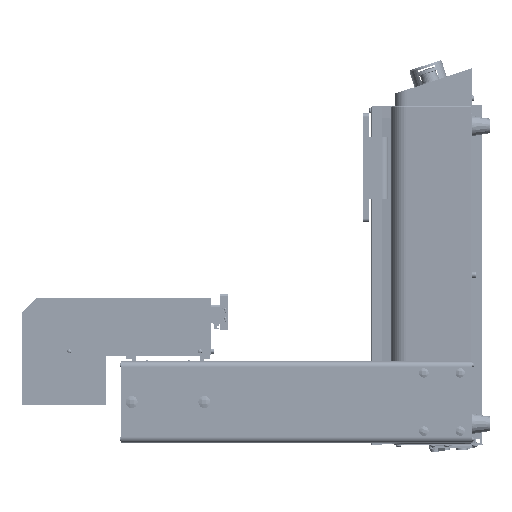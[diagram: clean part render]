
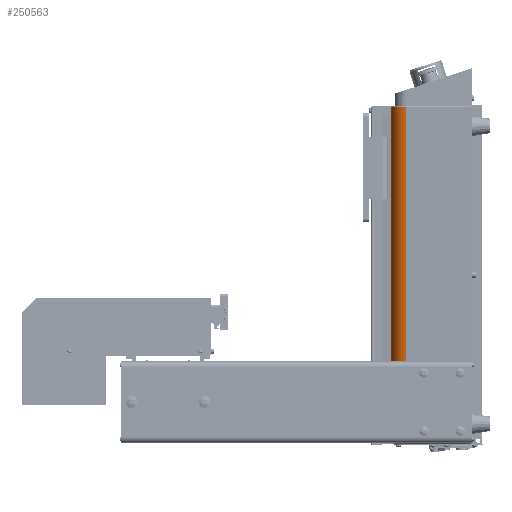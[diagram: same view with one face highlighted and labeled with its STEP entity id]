
A CAD part, left-side view. The second image highlights one B-rep face of the part: STEP entity #250563.
In plain terms, the highlighted cylindrical face has radius 22 mm (diameter 44 mm), a partial arc.
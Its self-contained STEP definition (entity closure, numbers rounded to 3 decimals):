
#231950 = PLANE('',#231951);
#231951 = AXIS2_PLACEMENT_3D('',#231952,#231953,#231954);
#231952 = CARTESIAN_POINT('',(153.82,329.087,
    489.695));
#231953 = DIRECTION('',(0.999,-0.044,0.));
#231954 = DIRECTION('',(0.044,0.999,0.));
#233418 = TOROIDAL_SURFACE('',#233419,20.,2.);
#233419 = AXIS2_PLACEMENT_3D('',#233420,#233421,#233422);
#233420 = CARTESIAN_POINT('',(175.799,328.127,
    26.695));
#233421 = DIRECTION('',(0.,0.,-1.));
#233422 = DIRECTION('',(-1.,0.,0.));
#248768 = PLANE('',#248769);
#248769 = AXIS2_PLACEMENT_3D('',#248770,#248771,#248772);
#248770 = CARTESIAN_POINT('',(554.073,350.127,
    489.695));
#248771 = DIRECTION('',(0.,-1.,0.));
#248772 = DIRECTION('',(0.,0.,-1.));
#248788 = VERTEX_POINT('',#248789);
#248789 = CARTESIAN_POINT('',(175.799,350.127,
    26.695));
#248810 = EDGE_CURVE('',#248811,#248788,#248813,.T.);
#248811 = VERTEX_POINT('',#248812);
#248812 = CARTESIAN_POINT('',(175.799,350.127,
    487.695));
#248813 = SURFACE_CURVE('',#248814,(#248818,#248825),.PCURVE_S1.);
#248814 = LINE('',#248815,#248816);
#248815 = CARTESIAN_POINT('',(175.799,350.127,
    489.695));
#248816 = VECTOR('',#248817,1.);
#248817 = DIRECTION('',(0.,0.,-1.));
#248818 = PCURVE('',#248768,#248819);
#248819 = DEFINITIONAL_REPRESENTATION('',(#248820),#248824);
#248820 = LINE('',#248821,#248822);
#248821 = CARTESIAN_POINT('',(0.,-378.274));
#248822 = VECTOR('',#248823,1.);
#248823 = DIRECTION('',(1.,0.));
#248824 = ( GEOMETRIC_REPRESENTATION_CONTEXT(2) 
PARAMETRIC_REPRESENTATION_CONTEXT() REPRESENTATION_CONTEXT('2D SPACE',''
  ) );
#248825 = PCURVE('',#248826,#248831);
#248826 = CYLINDRICAL_SURFACE('',#248827,22.);
#248827 = AXIS2_PLACEMENT_3D('',#248828,#248829,#248830);
#248828 = CARTESIAN_POINT('',(175.799,328.127,
    489.695));
#248829 = DIRECTION('',(0.,0.,-1.));
#248830 = DIRECTION('',(-1.,0.,0.));
#248831 = DEFINITIONAL_REPRESENTATION('',(#248832),#248836);
#248832 = LINE('',#248833,#248834);
#248833 = CARTESIAN_POINT('',(1.571,0.));
#248834 = VECTOR('',#248835,1.);
#248835 = DIRECTION('',(0.,1.));
#248836 = ( GEOMETRIC_REPRESENTATION_CONTEXT(2) 
PARAMETRIC_REPRESENTATION_CONTEXT() REPRESENTATION_CONTEXT('2D SPACE',''
  ) );
#250151 = EDGE_CURVE('',#250152,#250154,#250156,.T.);
#250152 = VERTEX_POINT('',#250153);
#250153 = CARTESIAN_POINT('',(153.82,329.087,
    487.695));
#250154 = VERTEX_POINT('',#250155);
#250155 = CARTESIAN_POINT('',(153.82,329.087,
    26.695));
#250156 = SURFACE_CURVE('',#250157,(#250161,#250168),.PCURVE_S1.);
#250157 = LINE('',#250158,#250159);
#250158 = CARTESIAN_POINT('',(153.82,329.087,
    489.695));
#250159 = VECTOR('',#250160,1.);
#250160 = DIRECTION('',(0.,0.,-1.));
#250161 = PCURVE('',#231950,#250162);
#250162 = DEFINITIONAL_REPRESENTATION('',(#250163),#250167);
#250163 = LINE('',#250164,#250165);
#250164 = CARTESIAN_POINT('',(0.,0.));
#250165 = VECTOR('',#250166,1.);
#250166 = DIRECTION('',(0.,-1.));
#250167 = ( GEOMETRIC_REPRESENTATION_CONTEXT(2) 
PARAMETRIC_REPRESENTATION_CONTEXT() REPRESENTATION_CONTEXT('2D SPACE',''
  ) );
#250168 = PCURVE('',#248826,#250169);
#250169 = DEFINITIONAL_REPRESENTATION('',(#250170),#250174);
#250170 = LINE('',#250171,#250172);
#250171 = CARTESIAN_POINT('',(0.044,0.));
#250172 = VECTOR('',#250173,1.);
#250173 = DIRECTION('',(0.,1.));
#250174 = ( GEOMETRIC_REPRESENTATION_CONTEXT(2) 
PARAMETRIC_REPRESENTATION_CONTEXT() REPRESENTATION_CONTEXT('2D SPACE',''
  ) );
#250563 = ADVANCED_FACE('',(#250564),#248826,.T.);
#250564 = FACE_BOUND('',#250565,.T.);
#250565 = EDGE_LOOP('',(#250566,#250567,#250589,#250590));
#250566 = ORIENTED_EDGE('',*,*,#248810,.T.);
#250567 = ORIENTED_EDGE('',*,*,#250568,.T.);
#250568 = EDGE_CURVE('',#248788,#250154,#250569,.T.);
#250569 = SURFACE_CURVE('',#250570,(#250575,#250582),.PCURVE_S1.);
#250570 = CIRCLE('',#250571,22.);
#250571 = AXIS2_PLACEMENT_3D('',#250572,#250573,#250574);
#250572 = CARTESIAN_POINT('',(175.799,328.127,
    26.695));
#250573 = DIRECTION('',(0.,0.,1.));
#250574 = DIRECTION('',(-1.,0.,0.));
#250575 = PCURVE('',#248826,#250576);
#250576 = DEFINITIONAL_REPRESENTATION('',(#250577),#250581);
#250577 = LINE('',#250578,#250579);
#250578 = CARTESIAN_POINT('',(6.283,463.));
#250579 = VECTOR('',#250580,1.);
#250580 = DIRECTION('',(-1.,0.));
#250581 = ( GEOMETRIC_REPRESENTATION_CONTEXT(2) 
PARAMETRIC_REPRESENTATION_CONTEXT() REPRESENTATION_CONTEXT('2D SPACE',''
  ) );
#250582 = PCURVE('',#233418,#250583);
#250583 = DEFINITIONAL_REPRESENTATION('',(#250584),#250588);
#250584 = LINE('',#250585,#250586);
#250585 = CARTESIAN_POINT('',(6.283,0.));
#250586 = VECTOR('',#250587,1.);
#250587 = DIRECTION('',(-1.,0.));
#250588 = ( GEOMETRIC_REPRESENTATION_CONTEXT(2) 
PARAMETRIC_REPRESENTATION_CONTEXT() REPRESENTATION_CONTEXT('2D SPACE',''
  ) );
#250589 = ORIENTED_EDGE('',*,*,#250151,.F.);
#250590 = ORIENTED_EDGE('',*,*,#250591,.T.);
#250591 = EDGE_CURVE('',#250152,#248811,#250592,.T.);
#250592 = SURFACE_CURVE('',#250593,(#250598,#250605),.PCURVE_S1.);
#250593 = CIRCLE('',#250594,22.);
#250594 = AXIS2_PLACEMENT_3D('',#250595,#250596,#250597);
#250595 = CARTESIAN_POINT('',(175.799,328.127,
    487.695));
#250596 = DIRECTION('',(0.,0.,-1.));
#250597 = DIRECTION('',(-1.,0.,0.));
#250598 = PCURVE('',#248826,#250599);
#250599 = DEFINITIONAL_REPRESENTATION('',(#250600),#250604);
#250600 = LINE('',#250601,#250602);
#250601 = CARTESIAN_POINT('',(0.,2.));
#250602 = VECTOR('',#250603,1.);
#250603 = DIRECTION('',(1.,0.));
#250604 = ( GEOMETRIC_REPRESENTATION_CONTEXT(2) 
PARAMETRIC_REPRESENTATION_CONTEXT() REPRESENTATION_CONTEXT('2D SPACE',''
  ) );
#250605 = PCURVE('',#250606,#250611);
#250606 = TOROIDAL_SURFACE('',#250607,20.,2.);
#250607 = AXIS2_PLACEMENT_3D('',#250608,#250609,#250610);
#250608 = CARTESIAN_POINT('',(175.799,328.127,
    487.695));
#250609 = DIRECTION('',(0.,0.,-1.));
#250610 = DIRECTION('',(-1.,0.,0.));
#250611 = DEFINITIONAL_REPRESENTATION('',(#250612),#250616);
#250612 = LINE('',#250613,#250614);
#250613 = CARTESIAN_POINT('',(0.,6.283));
#250614 = VECTOR('',#250615,1.);
#250615 = DIRECTION('',(1.,0.));
#250616 = ( GEOMETRIC_REPRESENTATION_CONTEXT(2) 
PARAMETRIC_REPRESENTATION_CONTEXT() REPRESENTATION_CONTEXT('2D SPACE',''
  ) );
